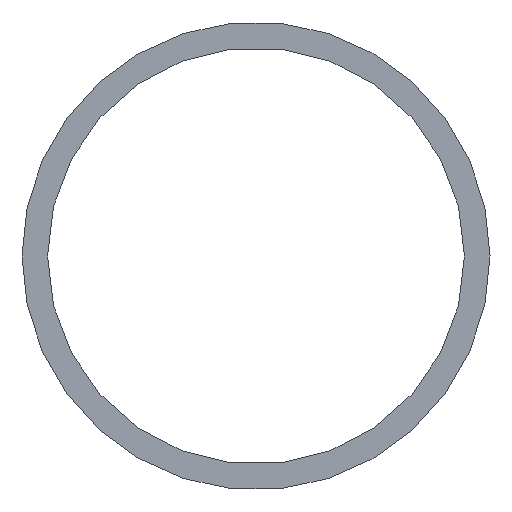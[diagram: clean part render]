
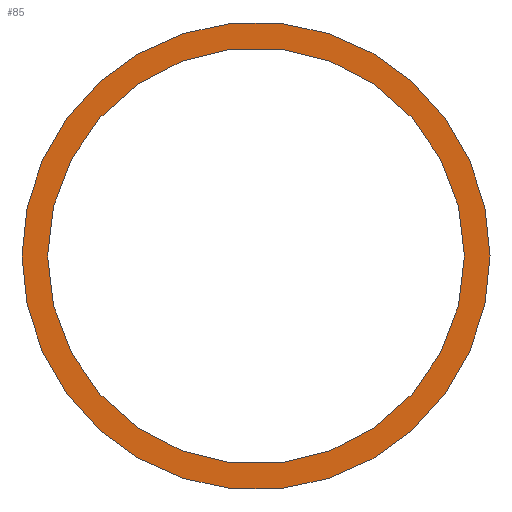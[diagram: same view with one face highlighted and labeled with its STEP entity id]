
A CAD part, left-side view. The second image highlights one B-rep face of the part: STEP entity #85.
In plain terms, the highlighted planar face has unit normal (-1, 0, 0).
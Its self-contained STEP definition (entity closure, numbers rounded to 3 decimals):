
#7 = VERTEX_POINT ( 'NONE', #23 ) ;
#22 = CARTESIAN_POINT ( 'NONE',  ( -3000., 0., 0. ) ) ;
#23 = CARTESIAN_POINT ( 'NONE',  ( -3000., -11., 0. ) ) ;
#26 = VERTEX_POINT ( 'NONE', #150 ) ;
#36 = DIRECTION ( 'NONE',  ( 0., 1., 0. ) ) ;
#37 = CARTESIAN_POINT ( 'NONE',  ( -3000., 0., 0. ) ) ;
#43 = DIRECTION ( 'NONE',  ( 0., 1., 0. ) ) ;
#44 = VERTEX_POINT ( 'NONE', #216 ) ;
#65 = DIRECTION ( 'NONE',  ( -1., 0., 0. ) ) ;
#85 = ADVANCED_FACE ( 'NONE', ( #165, #264 ), #263, .F. ) ;
#90 = CARTESIAN_POINT ( 'NONE',  ( -3000., -9.8, 0. ) ) ;
#92 = AXIS2_PLACEMENT_3D ( 'NONE', #296, #274, #224 ) ;
#103 = EDGE_LOOP ( 'NONE', ( #214, #121 ) ) ;
#104 = CIRCLE ( 'NONE', #265, 11. ) ;
#113 = DIRECTION ( 'NONE',  ( -1., 0., 0. ) ) ;
#119 = DIRECTION ( 'NONE',  ( 0., 1., 0. ) ) ;
#121 = ORIENTED_EDGE ( 'NONE', *, *, #204, .F. ) ;
#123 = VERTEX_POINT ( 'NONE', #90 ) ;
#127 = EDGE_CURVE ( 'NONE', #123, #26, #184, .T. ) ;
#138 = CARTESIAN_POINT ( 'NONE',  ( -3000., 0., 0. ) ) ;
#144 = ORIENTED_EDGE ( 'NONE', *, *, #127, .F. ) ;
#150 = CARTESIAN_POINT ( 'NONE',  ( -3000., 9.8, 0. ) ) ;
#163 = EDGE_LOOP ( 'NONE', ( #241, #144 ) ) ;
#165 = FACE_BOUND ( 'NONE', #163, .T. ) ;
#184 = CIRCLE ( 'NONE', #210, 9.8 ) ;
#188 = DIRECTION ( 'NONE',  ( 0., 1., 0. ) ) ;
#191 = DIRECTION ( 'NONE',  ( 1., 0., 0. ) ) ;
#196 = CIRCLE ( 'NONE', #220, 11. ) ;
#203 = CARTESIAN_POINT ( 'NONE',  ( -3000., 0., 0. ) ) ;
#204 = EDGE_CURVE ( 'NONE', #7, #44, #196, .T. ) ;
#209 = DIRECTION ( 'NONE',  ( 1., 0., 0. ) ) ;
#210 = AXIS2_PLACEMENT_3D ( 'NONE', #203, #65, #36 ) ;
#214 = ORIENTED_EDGE ( 'NONE', *, *, #267, .F. ) ;
#216 = CARTESIAN_POINT ( 'NONE',  ( -3000., 11., 0. ) ) ;
#220 = AXIS2_PLACEMENT_3D ( 'NONE', #138, #209, #43 ) ;
#224 = DIRECTION ( 'NONE',  ( 0., 1., 0. ) ) ;
#241 = ORIENTED_EDGE ( 'NONE', *, *, #253, .F. ) ;
#253 = EDGE_CURVE ( 'NONE', #26, #123, #300, .T. ) ;
#260 = AXIS2_PLACEMENT_3D ( 'NONE', #37, #113, #119 ) ;
#263 = PLANE ( 'NONE',  #92 ) ;
#264 = FACE_OUTER_BOUND ( 'NONE', #103, .T. ) ;
#265 = AXIS2_PLACEMENT_3D ( 'NONE', #22, #191, #188 ) ;
#267 = EDGE_CURVE ( 'NONE', #44, #7, #104, .T. ) ;
#274 = DIRECTION ( 'NONE',  ( 1., 0., 0. ) ) ;
#296 = CARTESIAN_POINT ( 'NONE',  ( -3000., 0., 0. ) ) ;
#300 = CIRCLE ( 'NONE', #260, 9.8 ) ;
